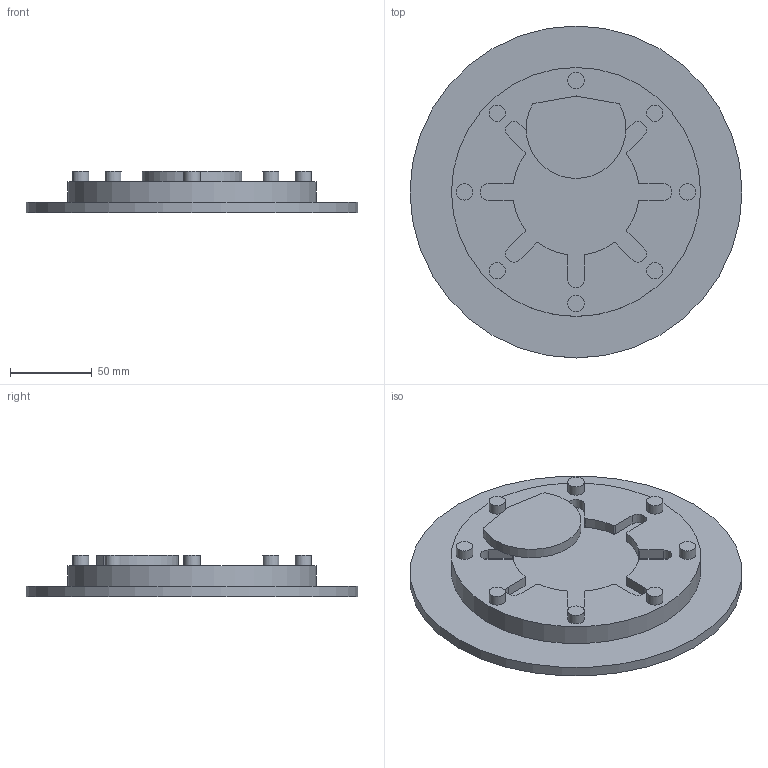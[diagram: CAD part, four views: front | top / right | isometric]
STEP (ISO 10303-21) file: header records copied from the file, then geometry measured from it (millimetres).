
FILE_DESCRIPTION(/* description */ (''),/* implementation_level */ '2;1');
FILE_NAME(/* name */ 'Internal Geneva Drive.step',/* time_stamp */ '2023-04-06T19:03:58-04:00',/* author */ (''),/* organization */ (''),/* preprocessor_version */ 'ST-DEVELOPER v19.2',/* originating_system */ 'Autodesk Translation Framework v12.4.0.73',/* authorisation */ '');
FILE_SCHEMA (('AUTOMOTIVE_DESIGN { 1 0 10303 214 3 1 1 }'));
Length unit declared in the file: inch
Products named in the file (4): Drive Assembly; Drive Wheel; Driven Wheel; Base
Assembly tree (3 placements, depth 2):
  Drive Assembly
    Drive Wheel
    Driven Wheel
    Base
Bounding box: 203.2 x 203.2 x 25.4 mm (x, y, z)
Volume: 417947.3 mm3; surface area: 122737.8 mm2
Topology: 3 solids, 3 shells, 78 faces, 189 edges, 126 vertices
Faces by surface type: cylinder 44, plane 34
Full cylindrical faces by diameter (mm): 10 x9, 152.4 x1, 203.2 x1
Entity records: 2466 total; most frequent: DIRECTION 451, CARTESIAN_POINT 401, ORIENTED_EDGE 378, EDGE_CURVE 189, AXIS2_PLACEMENT_3D 176, VERTEX_POINT 126, LINE 99, VECTOR 99
